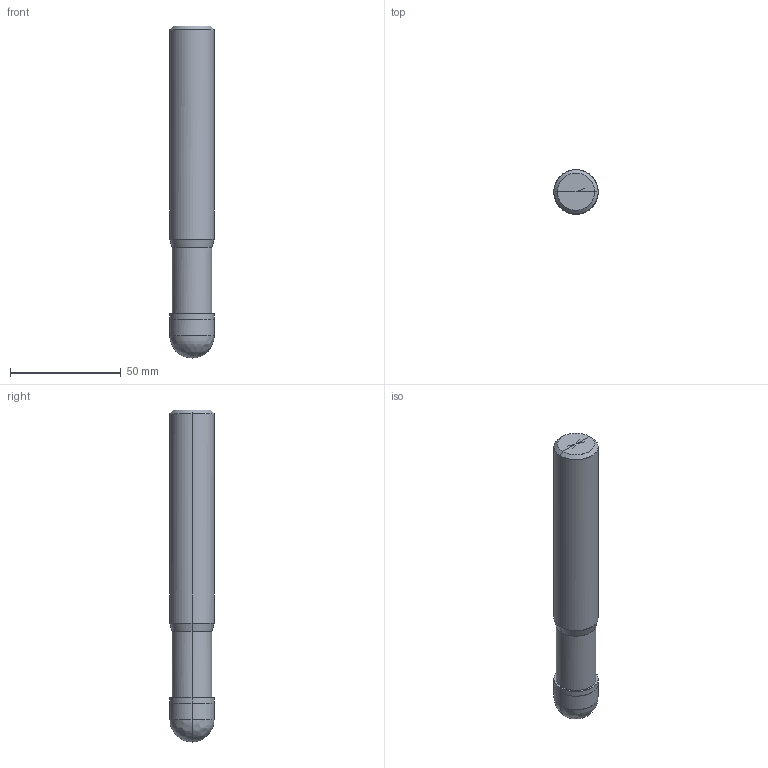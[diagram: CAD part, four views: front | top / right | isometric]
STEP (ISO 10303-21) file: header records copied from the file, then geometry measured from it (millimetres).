
FILE_DESCRIPTION(/* description */ (''),/* implementation_level */ '2;1');
FILE_NAME(/*name*/ '2102-20.0',/*time_stamp*/'2021-7-5T12:7:41',/*author*/ ('ISBE GmbH'),/*organization*/ ('ISBE GmbH'),/*preprocessor_version*/ 'STEP IO v1.0',/*originating_system*/ '',/*authorisation*/ '');
FILE_SCHEMA (('AUTOMOTIVE_DESIGN'));
Length unit declared in the file: millimetre
Products named in the file (1): Document
Bounding box: 20 x 19.97 x 150 mm (x, y, z)
Surface area: 10186.7 mm2 (no closed solid volume)
Topology: 0 solids, 22 shells, 22 faces, 90 edges, 84 vertices
Faces by surface type: bspline 22
Entity records: 717 total; most frequent: CARTESIAN_POINT 332, VERTEX_POINT 80, EDGE_CURVE 80, ORIENTED_EDGE 80, EDGE_LOOP 22, FACE_OUTER_BOUND 22, ADVANCED_FACE 22, DIRECTION 16
